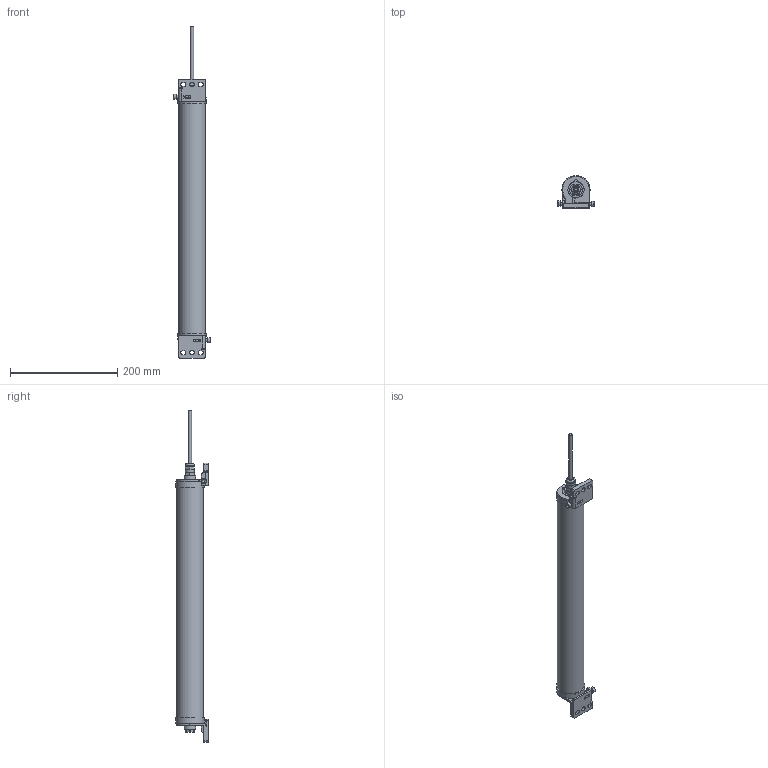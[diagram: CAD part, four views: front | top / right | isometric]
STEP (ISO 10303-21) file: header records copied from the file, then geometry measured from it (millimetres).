
FILE_DESCRIPTION((''),'2;1');
FILE_NAME('M:\INVENTORjob\Konstruktion\LV6036\Freigabe\Bauraummodelle\Geräte\stp\MLC_T_300_IP.stp','2016-05-11T16:06:39',('seisen'),(''),'Autodesk Inventor 2009','Autodesk Inventor 2009','');
FILE_SCHEMA(('AUTOMOTIVE_DESIGN { 1 0 10303 214 1 1 1 1 }'));
Length unit declared in the file: millimetre
Products named in the file (9): MLC_T_300 IP.iam (Detailgenauigkeit1); IP tube; tube 300; pmma rohr; halter; MLC_T_300; Anschlusskappe_T; Profil MLC 300; Endkappe_T
Assembly tree (9 placements, depth 3):
  MLC_T_300 IP.iam (Detailgenauigkeit1)
    IP tube
      tube 300
      pmma rohr
    halter  x2
    MLC_T_300
      Anschlusskappe_T
      Profil MLC 300
      Endkappe_T
Bounding box: 70 x 60.25 x 619 mm (x, y, z)
Volume: 670258.4 mm3; surface area: 240568.5 mm2
Topology: 8 solids, 8 shells, 363 faces, 934 edges, 600 vertices
Faces by surface type: plane 183, cylinder 114, bspline 38, cone 19, torus 7, sphere 2
Full cylindrical faces by diameter (mm): 6 x5, 8.5 x2, 10 x2, 12 x1, 17 x2, 18 x1, 22.5 x1, 30 x2, 45 x2, 46 x1, 50 x2, 50.5 x1, 52.5 x2
Entity records: 9672 total; most frequent: CARTESIAN_POINT 2858, DIRECTION 1389, ORIENTED_EDGE 1332, EDGE_CURVE 666, AXIS2_PLACEMENT_3D 515, VERTEX_POINT 441, VECTOR 359, LINE 359
